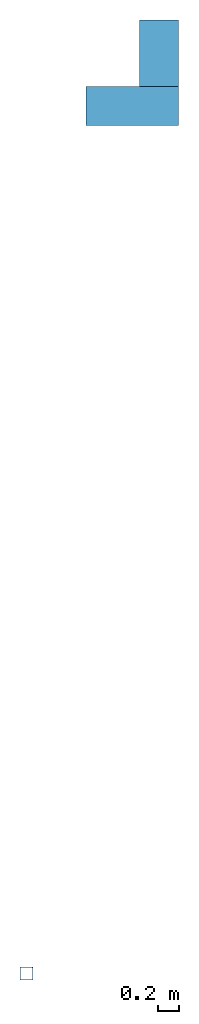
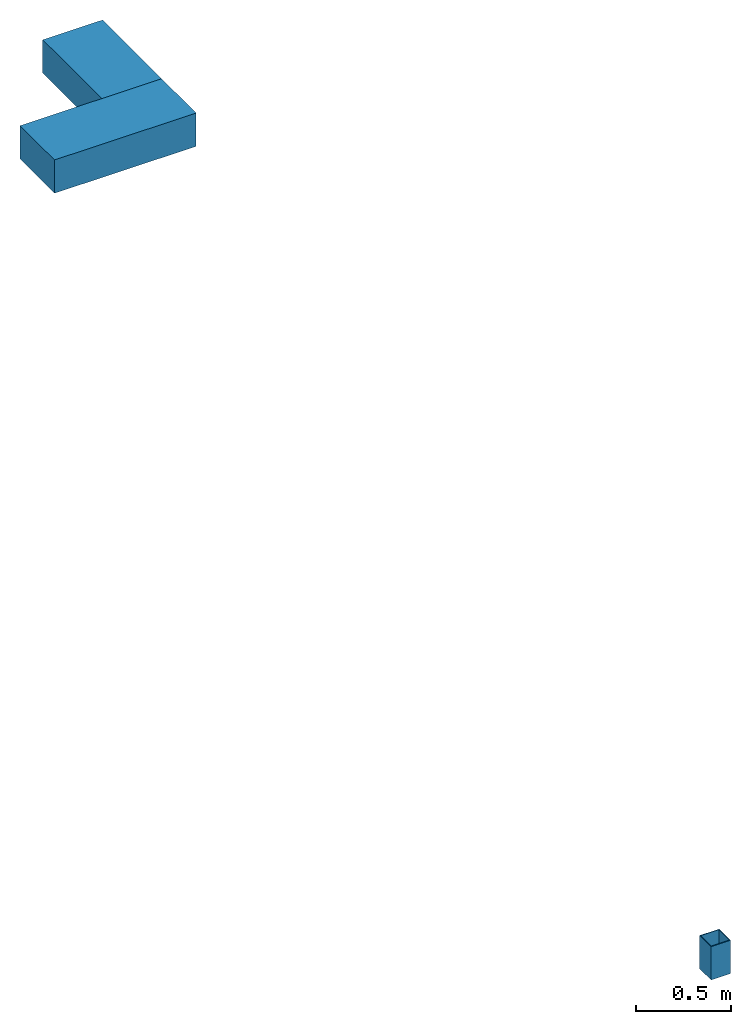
# One storey: 2 walls, 1 column.
"""IFC2X3 building model written with IfcOpenShell, lengths in millimetres."""

from ifc_helpers import new_model, entity, si_unit, converted_unit, derived_unit, direction, frame, frame_2d, origin, origin_with_axes, place, context, subcontext, project, spatial, polyline, circle_curve, parameter, trimmed, segment, composite_curve, rectangle, outline, extrude, clip, halfspace, faceted_brep, source, transform, mapped, material, layer, layer_set, layer_usage, type_object, element, save


model = new_model("IFC2X3")

# Units and contexts
model_context = context("Model", 3, precision=0.01, world=frame((0.0, 4.29681676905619e-09, 0.0)), true_north=direction((4.01073788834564e-13, 1.0)))
plan_context = context("Plan", 3, precision=0.01, world=frame((0.0, 4.29681676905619e-09, 0.0)), true_north=direction((4.01073788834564e-13, 1.0)))
body_context = subcontext(model_context, "Body", "Model", "MODEL_VIEW")
ifc_project = project(units=[converted_unit("PLANEANGLEUNIT", "DEGREE", entity("IfcPositiveLengthMeasure", 0.0174532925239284), si_unit("PLANEANGLEUNIT", "RADIAN"), dimensions=[0, 0, 0, 0, 0, 0, 0]), si_unit("AREAUNIT", "SQUARE_METRE"), si_unit("LENGTHUNIT", "METRE", prefix="MILLI"), si_unit("MASSUNIT", "GRAM", prefix="KILO"), si_unit("POWERUNIT", "WATT"), si_unit("PRESSUREUNIT", "PASCAL"), si_unit("FORCEUNIT", "NEWTON", prefix="KILO"), si_unit("ELECTRICVOLTAGEUNIT", "VOLT"), si_unit("ELECTRICCURRENTUNIT", "AMPERE"), si_unit("THERMODYNAMICTEMPERATUREUNIT", "DEGREE_CELSIUS"), si_unit("TIMEUNIT", "SECOND"), si_unit("VOLUMEUNIT", "CUBIC_METRE"), derived_unit("LINEARVELOCITYUNIT", [(si_unit("LENGTHUNIT", "METRE"), 1), (si_unit("TIMEUNIT", "SECOND"), -1)]), derived_unit("VOLUMETRICFLOWRATEUNIT", [(si_unit("VOLUMEUNIT", "CUBIC_METRE"), 1), (si_unit("TIMEUNIT", "SECOND"), -1)]), derived_unit("THERMALTRANSMITTANCEUNIT", [(si_unit("POWERUNIT", "WATT"), 1), (si_unit("THERMODYNAMICTEMPERATUREUNIT", "KELVIN"), -1), (si_unit("AREAUNIT", "SQUARE_METRE"), -1)]), derived_unit("SOUNDPRESSUREUNIT", [(si_unit("PRESSUREUNIT", "PASCAL"), 1)])], contexts=[model_context, plan_context])

# Site, building, storey
site_placement = place(None, origin_with_axes())
site = spatial("IfcSite", under=ifc_project, at=site_placement, Name="ENGM", CompositionType="ELEMENT")
building_placement = place(site_placement, origin_with_axes())
building = spatial("IfcBuilding", under=site, at=building_placement, Name="TI", CompositionType="ELEMENT")
storey_placement = place(building_placement, frame((0.0, 0.0, 210200.0), z_axis=(0.0, 0.0, 1.0), x_axis=(1.0, 0.0, 0.0)))
storey = spatial("IfcBuildingStorey", under=building, at=storey_placement, Name="Nivå F - 0,7 m", CompositionType="ELEMENT", Elevation=210200.0)

# Column
ifc_material_1 = material(Name="Stål_  RAL 7035")
column_type = type_object("IfcColumnType", Name="B222 - HUP:B222 - HUP - 120 x 120 x 5 mm", PredefinedType="COLUMN", material=ifc_material_1)
shared_shape = source(origin(), body_context, "Body", "SweptSolid", [
    extrude(outline(polyline([(-60.0, -60.0), (60.0, -60.0), (60.0, 60.0), (-60.0, 60.0), (-60.0, -60.0)]), holes=[polyline([(-55.0, -55.0), (-55.0, 55.0), (55.0, 55.0), (55.0, -55.0), (-55.0, -55.0)])]), frame((610239.999999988, 690528.0, 210200.0)), (0.0, 0.0, 1.0), 215.000000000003),
    extrude(outline(composite_curve([segment(polyline([(-55.0, -60.0), (55.0, -60.0)]), True, "CONTINUOUS"), segment(trimmed(circle_curve(frame_2d((55.0, -55.0), x_axis=(-1.0, 0.0)), 5.0), [parameter(90.0000000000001)], [parameter(180.0)], True, "PARAMETER"), True, "CONTINUOUS"), segment(polyline([(60.0, -55.0), (60.0, 55.0)]), True, "CONTINUOUS"), segment(trimmed(circle_curve(frame_2d((55.0, 55.0), x_axis=(-1.0, 0.0)), 5.0), [parameter(180.0)], [parameter(270.0)], True, "PARAMETER"), True, "CONTINUOUS"), segment(polyline([(55.0, 60.0), (-55.0, 60.0)]), True, "CONTINUOUS"), segment(trimmed(circle_curve(frame_2d((-55.0, 55.0), x_axis=(-1.0, 0.0)), 5.0), [parameter(270.0)], [parameter(0.0)], True, "PARAMETER"), True, "CONTINUOUS"), segment(polyline([(-60.0, 55.0), (-60.0, -55.0)]), True, "CONTINUOUS"), segment(trimmed(circle_curve(frame_2d((-55.0, -55.0), x_axis=(-1.0, 0.0)), 5.0), [parameter(0.0)], [parameter(90.0000000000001)], True, "PARAMETER"), True, "CONTINUOUS")], self_intersect=False), holes=[composite_curve([segment(trimmed(circle_curve(frame_2d((-52.5, -52.5), x_axis=(-1.0, 0.0)), 2.5), [parameter(0.0)], [parameter(90.0000000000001)], True, "PARAMETER"), False, "CONTINUOUS"), segment(polyline([(-55.0, -52.5), (-55.0, 52.4999999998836)]), True, "CONTINUOUS"), segment(trimmed(circle_curve(frame_2d((-52.5, 52.4999999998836), x_axis=(-1.0, 0.0)), 2.5), [parameter(270.0)], [parameter(0.0)], True, "PARAMETER"), False, "CONTINUOUS"), segment(polyline([(-52.5, 55.0), (52.5, 55.0)]), True, "CONTINUOUS"), segment(trimmed(circle_curve(frame_2d((52.5, 52.4999999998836), x_axis=(-1.0, 0.0)), 2.5), [parameter(180.0)], [parameter(270.0)], True, "PARAMETER"), False, "CONTINUOUS"), segment(polyline([(55.0, 52.4999999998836), (55.0, -52.5)]), True, "CONTINUOUS"), segment(trimmed(circle_curve(frame_2d((52.5, -52.5), x_axis=(-1.0, 0.0)), 2.5), [parameter(90.0000000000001)], [parameter(180.0)], True, "PARAMETER"), False, "CONTINUOUS"), segment(polyline([(52.5, -55.0), (-52.5, -55.0)]), True, "CONTINUOUS")], self_intersect=False)]), frame((610239.999999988, 690528.0, 210200.0)), (0.0, 0.0, 1.0), 215.000000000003),
])
column_placement = place(storey_placement, frame((0.0, 0.0, -210200.0), z_axis=(0.0, 0.0, 1.0), x_axis=(1.0, 0.0, 0.0)))
element("IfcColumn", 1, at=column_placement, inside=storey, type_object=column_type, material=ifc_material_1, Name="B222 - HUP:B222 - HUP - 120 x 120 x 5 mm", ObjectType="B222 - HUP:B222 - HUP - 120 x 120 x 5 mm", context=body_context, shape_type="MappedRepresentation", body=[
    mapped(shared_shape, transform((0.0, 0.0, 0.0), scale=1.0)),
])

# Walls
ifc_material_2 = material(Name="_NSW Murpuss")
ifc_layer_1 = layer(ifc_material_2, 15.0)
ifc_material_3 = material(Name="_NSW Lettklinker")
ifc_layer_2 = layer(ifc_material_3, 100.0)
ifc_material_4 = material(Name="_NSW Isolasjon")
ifc_layer_3 = layer(ifc_material_4, 250.0)
ifc_layer_set = layer_set([ifc_layer_1, ifc_layer_2, ifc_layer_3], Name="Basic Wall:A231 - SBE 250 iso+100 lettklinker+15mm puss")
ifc_layer_usage = layer_usage(ifc_layer_set, "AXIS2", "NEGATIVE", 182.5)
wall_type = type_object("IfcWallType", Name="Basic Wall:A231 - SBE 250 iso+100 lettklinker+15mm puss", PredefinedType="STANDARD", material=ifc_layer_set)
wall_1_placement = place(storey_placement, frame((611665.000000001, 698667.499999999, 0.0), z_axis=(0.0, 0.0, 1.0), x_axis=(-1.0, 0.0, 0.0)))
element("IfcWallStandardCase", 2, at=wall_1_placement, inside=storey, type_object=wall_type, material=ifc_layer_usage, Name="Basic Wall:A231 - SBE 250 iso+100 lettklinker+15mm puss", ObjectType="Basic Wall:A231 - SBE 250 iso+100 lettklinker+15mm puss", context=body_context, shape_type="Clipping", body=[
    clip(extrude(rectangle(XDim=864.99999999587, YDim=365.000000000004, at=frame_2d((432.499999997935, 0.0), x_axis=(-1.0, 0.0))), origin(), (0.0, 0.0, 1.0), 215.000000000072), halfspace(frame((0.0, 0.0, -5000.0)), True)),
])
wall_2_placement = place(storey_placement, frame((611482.500000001, 713265.000437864, 0.0), z_axis=(0.0, 0.0, 1.0), x_axis=(0.0, -1.0, 0.0)))
element("IfcWall", 3, at=wall_2_placement, inside=storey, type_object=wall_type, Name="Basic Wall:A231 - SBE 250 iso+100 lettklinker+15mm puss", ObjectType="Basic Wall:A231 - SBE 250 iso+100 lettklinker+15mm puss", context=body_context, shape_type="Brep", body=[
    faceted_brep([(13789.500437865, -182.500000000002, 0.0), (13789.500437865, -182.500000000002, 215.000000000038), (14415.0004378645, -182.500000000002, 215.000000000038), (14415.0004378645, -182.500000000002, 0.0), (14415.0004378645, 182.500000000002, 215.000000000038), (14415.0004378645, 182.500000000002, 0.0), (13789.500437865, 182.500000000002, 215.000000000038), (13789.500437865, 182.500000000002, 0.0)], [[[0, 1, 2, 3]], [[3, 2, 4, 5]], [[6, 7, 5, 4]], [[7, 0, 3, 5]], [[1, 6, 4, 2]], [[7, 6, 1, 0]]], orient=[[False], [False], [False], [False], [False], [False]]),
])

save(model, "model.ifc")
